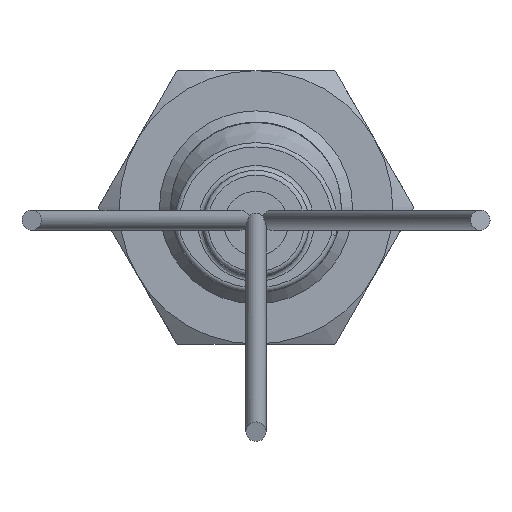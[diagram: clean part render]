
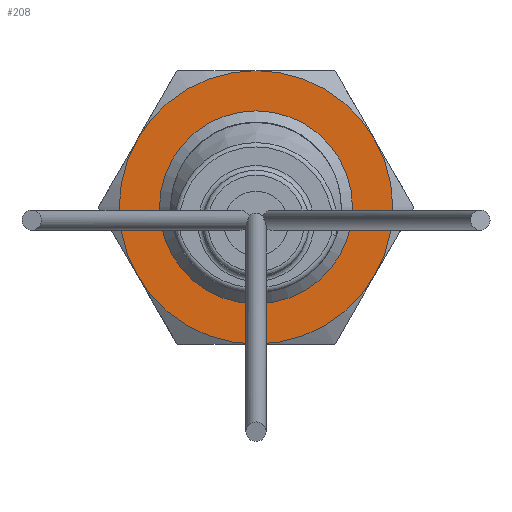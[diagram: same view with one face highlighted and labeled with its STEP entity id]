
A CAD part, left-side view. The second image highlights one B-rep face of the part: STEP entity #208.
In plain terms, the highlighted planar face has unit normal (-1, 0, 0).
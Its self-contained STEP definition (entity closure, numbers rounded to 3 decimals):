
#208 = ADVANCED_FACE( '', ( #307, #308 ), #309, .F. );
#307 = FACE_OUTER_BOUND( '', #433, .T. );
#308 = FACE_BOUND( '', #434, .T. );
#309 = PLANE( '', #435 );
#433 = EDGE_LOOP( '', ( #633, #634, #635, #636, #637, #638 ) );
#434 = EDGE_LOOP( '', ( #639 ) );
#435 = AXIS2_PLACEMENT_3D( '', #640, #641, #642 );
#633 = ORIENTED_EDGE( '', *, *, #828, .F. );
#634 = ORIENTED_EDGE( '', *, *, #829, .F. );
#635 = ORIENTED_EDGE( '', *, *, #830, .F. );
#636 = ORIENTED_EDGE( '', *, *, #831, .F. );
#637 = ORIENTED_EDGE( '', *, *, #832, .F. );
#638 = ORIENTED_EDGE( '', *, *, #833, .F. );
#639 = ORIENTED_EDGE( '', *, *, #834, .T. );
#640 = CARTESIAN_POINT( '', ( 0., 0., 0. ) );
#641 = DIRECTION( '', ( 1., 0., 0. ) );
#642 = DIRECTION( '', ( 0., 0., -1. ) );
#828 = EDGE_CURVE( '', #937, #938, #939, .T. );
#829 = EDGE_CURVE( '', #940, #937, #941, .T. );
#830 = EDGE_CURVE( '', #942, #940, #943, .T. );
#831 = EDGE_CURVE( '', #944, #942, #945, .T. );
#832 = EDGE_CURVE( '', #946, #944, #947, .T. );
#833 = EDGE_CURVE( '', #938, #946, #948, .T. );
#834 = EDGE_CURVE( '', #949, #949, #950, .T. );
#937 = VERTEX_POINT( '', #1177 );
#938 = VERTEX_POINT( '', #1178 );
#939 = CIRCLE( '', #1179, 8.5 );
#940 = VERTEX_POINT( '', #1180 );
#941 = CIRCLE( '', #1181, 8.5 );
#942 = VERTEX_POINT( '', #1182 );
#943 = CIRCLE( '', #1183, 8.5 );
#944 = VERTEX_POINT( '', #1184 );
#945 = CIRCLE( '', #1185, 8.5 );
#946 = VERTEX_POINT( '', #1186 );
#947 = CIRCLE( '', #1187, 8.5 );
#948 = CIRCLE( '', #1188, 8.5 );
#949 = VERTEX_POINT( '', #1189 );
#950 = CIRCLE( '', #1190, 6. );
#1177 = CARTESIAN_POINT( '', ( 0., 7.361, -4.25 ) );
#1178 = CARTESIAN_POINT( '', ( 0., 7.361, 4.25 ) );
#1179 = AXIS2_PLACEMENT_3D( '', #1474, #1475, #1476 );
#1180 = CARTESIAN_POINT( '', ( 0., 0., -8.5 ) );
#1181 = AXIS2_PLACEMENT_3D( '', #1477, #1478, #1479 );
#1182 = CARTESIAN_POINT( '', ( 0., -7.361, -4.25 ) );
#1183 = AXIS2_PLACEMENT_3D( '', #1480, #1481, #1482 );
#1184 = CARTESIAN_POINT( '', ( 0., -7.361, 4.25 ) );
#1185 = AXIS2_PLACEMENT_3D( '', #1483, #1484, #1485 );
#1186 = CARTESIAN_POINT( '', ( 0., 0., 8.5 ) );
#1187 = AXIS2_PLACEMENT_3D( '', #1486, #1487, #1488 );
#1188 = AXIS2_PLACEMENT_3D( '', #1489, #1490, #1491 );
#1189 = CARTESIAN_POINT( '', ( 0., 0., -6. ) );
#1190 = AXIS2_PLACEMENT_3D( '', #1492, #1493, #1494 );
#1474 = CARTESIAN_POINT( '', ( 0., 0., 0. ) );
#1475 = DIRECTION( '', ( 1., 0., 0. ) );
#1476 = DIRECTION( '', ( 0., 0., -1. ) );
#1477 = CARTESIAN_POINT( '', ( 0., 0., 0. ) );
#1478 = DIRECTION( '', ( 1., 0., 0. ) );
#1479 = DIRECTION( '', ( 0., 0., -1. ) );
#1480 = CARTESIAN_POINT( '', ( 0., 0., 0. ) );
#1481 = DIRECTION( '', ( 1., 0., 0. ) );
#1482 = DIRECTION( '', ( 0., 0., -1. ) );
#1483 = CARTESIAN_POINT( '', ( 0., 0., 0. ) );
#1484 = DIRECTION( '', ( 1., 0., 0. ) );
#1485 = DIRECTION( '', ( 0., 0., -1. ) );
#1486 = CARTESIAN_POINT( '', ( 0., 0., 0. ) );
#1487 = DIRECTION( '', ( 1., 0., 0. ) );
#1488 = DIRECTION( '', ( 0., 0., -1. ) );
#1489 = CARTESIAN_POINT( '', ( 0., 0., 0. ) );
#1490 = DIRECTION( '', ( 1., 0., 0. ) );
#1491 = DIRECTION( '', ( 0., 0., -1. ) );
#1492 = CARTESIAN_POINT( '', ( 0., 0., 0. ) );
#1493 = DIRECTION( '', ( 1., 0., 0. ) );
#1494 = DIRECTION( '', ( 0., 0., -1. ) );
